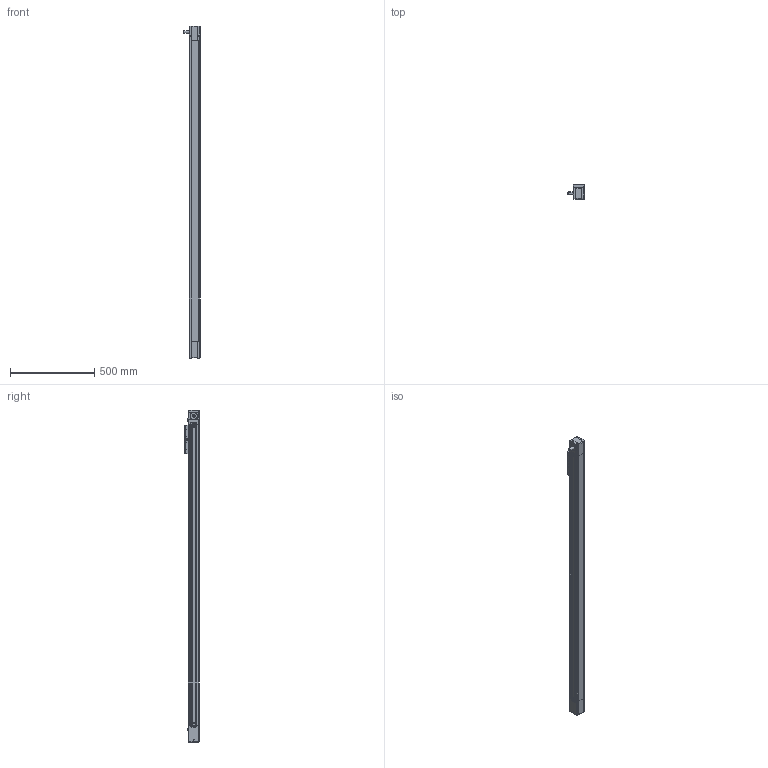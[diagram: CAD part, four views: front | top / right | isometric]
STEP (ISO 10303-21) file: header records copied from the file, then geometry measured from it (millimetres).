
FILE_DESCRIPTION(/* description */ ('STEP AP214'),/* implementation_level */ '2;1');
FILE_NAME(/* name */ 'MTJ 65 1600 S 1L 0(0)',/* time_stamp */ '2026-06-01T14:06:05+02:00',/* author */ ('License CC BY-ND 4.0'),/* organization */ ('CADENAS'),/* preprocessor_version */ 'ST-DEVELOPER v20',/* originating_system */ 'PARTsolutions',/* authorisation */ ' ');
FILE_SCHEMA (('AUTOMOTIVE_DESIGN {1 0 10303 214 3 1 1}'));
Length unit declared in the file: millimetre
Products named in the file (5): MTJ 65 1600 S 1L 0(0); MTJ 65 1L_drive_block; MTJ 65 1600 S(0)_profil; MTJ 65_end_block; MTJ 65 S_carriage
Assembly tree (4 placements, depth 2):
  MTJ 65 1600 S 1L 0(0)
    MTJ 65 1L_drive_block
    MTJ 65 1600 S(0)_profil
    MTJ 65_end_block
    MTJ 65 S_carriage
Bounding box: 97.5 x 85 x 1965 mm (x, y, z)
Volume: 7264831.9 mm3; surface area: 981586.1 mm2
Topology: 4 solids, 4 shells, 764 faces, 1847 edges, 1188 vertices
Faces by surface type: plane 507, cylinder 172, cone 62, sphere 14, torus 9
Full cylindrical faces by diameter (mm): 0.5 x2, 2.5 x1, 3.24 x4, 3.242 x8, 4.134 x2, 4.917 x20, 7 x6, 8 x10, 8.5 x16, 10 x22, 10.1 x4, 11 x2, 11.8 x2, 12.2 x2, 16 x1, 42 x2
Entity records: 26248 total; most frequent: CARTESIAN_POINT 3570, DIRECTION 3540, ORIENTED_EDGE 3236, EDGE_CURVE 1618, LINE 1226, VECTOR 1226, VERTEX_POINT 1163, AXIS2_PLACEMENT_3D 1157
